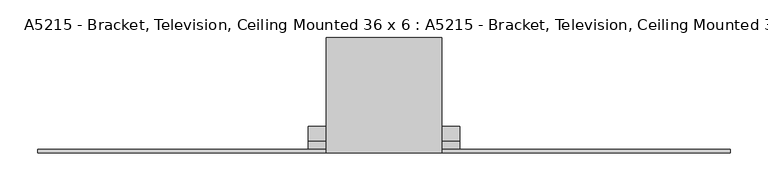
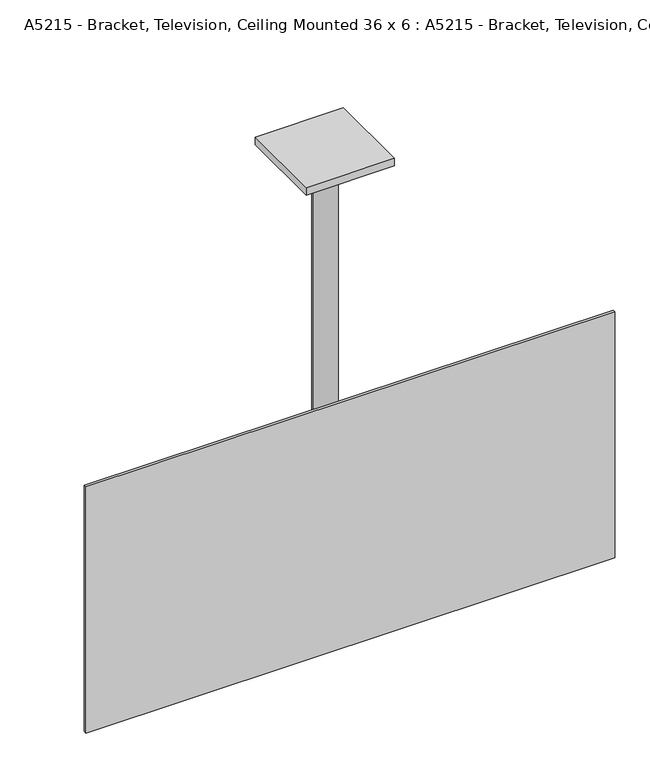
"""IFC4 building model written with IfcOpenShell, lengths in millimetres: proxy geometry."""

from ifc_helpers import new_model, si_unit, point, frame, frame_2d, origin, origin_with_axes, place, context, project, spatial, polyline, circle_curve, trimmed, segment, composite_curve, outline, extrude, source, transform, mapped, element, save


def proxy_f2abb529(model_context):
    return source(origin(), model_context, "Body", "SweptSolid", [
        extrude(outline(polyline([(-452.2, 300.0), (-442.2, 300.0), (-422.2, 150.0), (-452.2, 150.0), (-452.2, 300.0)])), frame((-481.0, 0.0, 0.0), z_axis=(1.0, 0.0, 0.0), x_axis=(0.0, 1.0, 0.0)), (0.0, 0.0, 1.0), 200.0),
        extrude(outline(composite_curve([segment(trimmed(circle_curve(frame_2d((-381.0, -381.0)), 20.0), [point((-401.0, -381.0))], [point((-361.0, -381.0))], False, "CARTESIAN"), True, "CONTINUOUS"), segment(trimmed(circle_curve(frame_2d((-381.0, -381.0)), 20.0), [point((-361.0, -381.0))], [point((-401.0, -381.0))], False, "CARTESIAN"), True, "CONTINUOUS")], self_intersect=False)), frame((0.0, 0.0, 150.0), z_axis=(0.0, 0.0, 1.0), x_axis=(1.0, 0.0, 0.0)), (0.0, 0.0, 1.0), 700.0),
        extrude(outline(polyline([(-304.8, -304.8), (-304.8, -457.2), (-457.2, -457.2), (-457.2, -304.8), (-304.8, -304.8)])), frame((0.0, 0.0, 850.0), z_axis=(0.0, 0.0, 1.0), x_axis=(1.0, 0.0, 0.0)), (0.0, 0.0, 1.0), 13.6),
        extrude(outline(polyline([(-371.0, -442.2), (-391.0, -442.2), (-391.0, -381.0), (-371.0, -381.0), (-371.0, -442.2)])), frame((0.0, 0.0, 150.0), z_axis=(0.0, 0.0, 1.0), x_axis=(1.0, 0.0, 0.0)), (0.0, 0.0, 1.0), 40.0),
        extrude(outline(polyline([(-838.2, -457.2), (-838.2, -452.2), (76.2, -452.2), (76.2, -457.2), (-838.2, -457.2)])), origin_with_axes(), (0.0, 0.0, 1.0), 450.0),
    ])


if __name__ == "__main__":
    model = new_model("IFC4")
    model_context = context("Model", 3, world=origin())
    ifc_project = project(units=[si_unit("LENGTHUNIT", "METRE", prefix="MILLI")], contexts=[model_context])
    site = spatial("IfcSite", under=ifc_project)
    building = spatial("IfcBuilding", under=site)
    placement = place(None, origin())
    proxy_shape = proxy_f2abb529(model_context)
    element("IfcBuildingElementProxy", 1, Name="A5215 - Bracket, Television, Ceiling Mounted 36 x 6 : A5215 - Bracket, Television, Ceiling Mounted 36\"x 6\"", ObjectType="A5215 - Bracket, Television, Ceiling Mounted 36 x 6 : A5215 - Bracket, Television, Ceiling Mounted 36\"x 6\"", at=placement, inside=building, context=model_context, shape_type="MappedRepresentation", body=[
        mapped(proxy_shape, transform((0.0, 0.0, 0.0), x_axis=(1.0, 0.0, 0.0), y_axis=(0.0, 1.0, 0.0), z_axis=(0.0, 0.0, 1.0))),
    ])
    save(model, "model.ifc")
